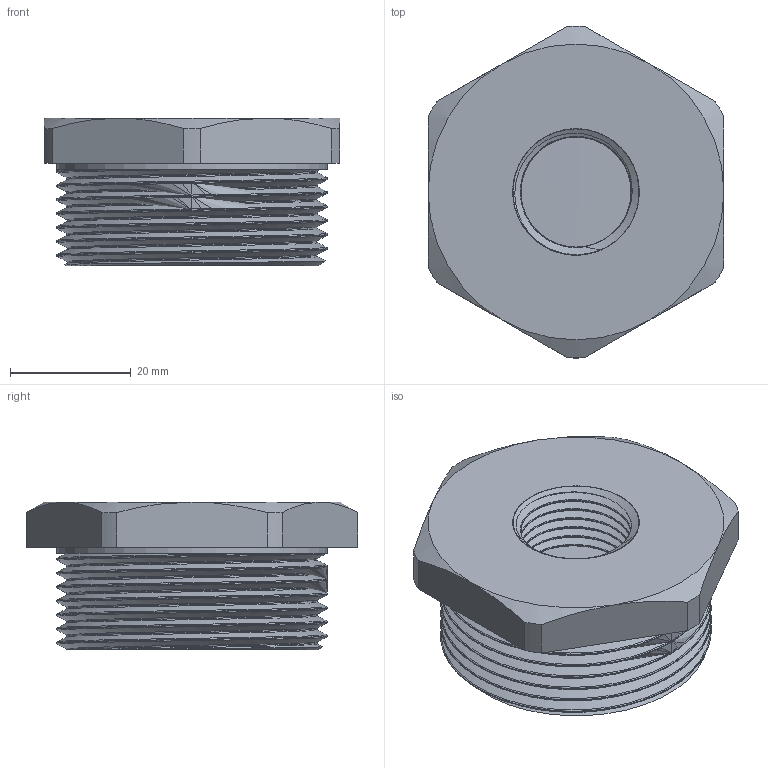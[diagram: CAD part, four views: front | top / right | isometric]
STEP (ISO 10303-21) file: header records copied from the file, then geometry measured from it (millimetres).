
FILE_DESCRIPTION(/* description */ (''),/* implementation_level */ '2;1');
FILE_NAME(/* name */ 'C:\Users\Doom\Desktop\Фадотех\Резьба\PF07 18.03.2020\PF07 18.03.2020.stp',/* time_stamp */ '2022-01-14T01:19:32+02:00',/* author */ ('Doom'),/* organization */ (''),/* preprocessor_version */ 'ST-DEVELOPER v18',/* originating_system */ 'Autodesk Inventor 2020',/* authorisation */ '');
FILE_SCHEMA (('AUTOMOTIVE_DESIGN { 1 0 10303 214 3 1 1 }'));
Length unit declared in the file: millimetre
Products named in the file (1): PF07 18.03.2020
Bounding box: 49 x 54.99 x 24.5 mm (x, y, z)
Volume: 37753 mm3; surface area: 19751.4 mm2
Topology: 3 solids, 3 shells, 69 faces, 184 edges, 122 vertices
Faces by surface type: cylinder 34, plane 14, bspline 12, cone 9
Full cylindrical faces by diameter (mm): 18.26 x12, 20.95 x2, 41.416 x2, 44.84 x8
Entity records: 13135 total; most frequent: CARTESIAN_POINT 11561, ORIENTED_EDGE 364, DIRECTION 248, EDGE_CURVE 182, VERTEX_POINT 121, AXIS2_PLACEMENT_3D 102, B_SPLINE_CURVE_WITH_KNOTS 82, EDGE_LOOP 77
